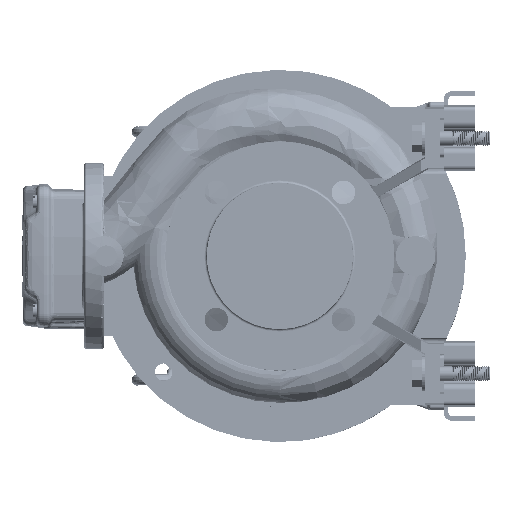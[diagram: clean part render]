
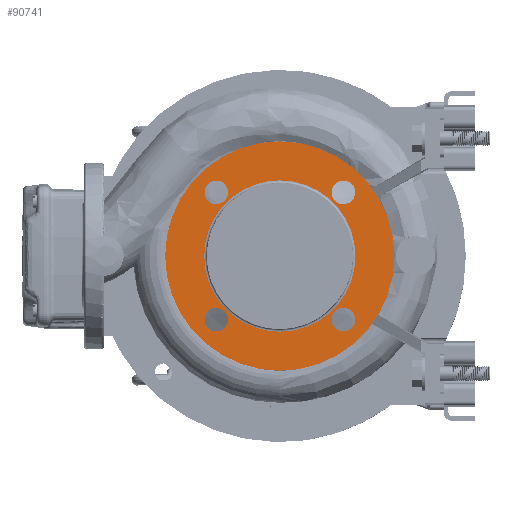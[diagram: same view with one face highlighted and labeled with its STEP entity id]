
A CAD part, left-side view. The second image highlights one B-rep face of the part: STEP entity #90741.
In plain terms, the highlighted planar face has unit normal (-1, 0, 0).
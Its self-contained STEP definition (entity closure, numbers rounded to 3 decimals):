
#400 = CARTESIAN_POINT ( 'NONE',  ( -105.237, 164.78, 289.123 ) ) ;
#564 = CARTESIAN_POINT ( 'NONE',  ( -105.237, 113.515, 237.858 ) ) ;
#1081 = EDGE_LOOP ( 'NONE', ( #107892, #130427 ) ) ;
#1752 = CARTESIAN_POINT ( 'NONE',  ( -105.237, 225.545, 340.389 ) ) ;
#5248 = DIRECTION ( 'NONE',  ( 0., 1., 0. ) ) ;
#6088 = FACE_BOUND ( 'NONE', #157242, .T. ) ;
#6342 = DIRECTION ( 'NONE',  ( -1., 0., 0. ) ) ;
#6360 = EDGE_LOOP ( 'NONE', ( #64210, #114131 ) ) ;
#6955 = CIRCLE ( 'NONE', #29042, 9.5 ) ;
#8656 = VERTEX_POINT ( 'NONE', #100483 ) ;
#10008 = CARTESIAN_POINT ( 'NONE',  ( -105.237, 113.515, 237.858 ) ) ;
#10297 = AXIS2_PLACEMENT_3D ( 'NONE', #54737, #160213, #94475 ) ;
#10913 = CARTESIAN_POINT ( 'NONE',  ( -105.237, 216.045, 237.858 ) ) ;
#11987 = EDGE_CURVE ( 'NONE', #84169, #156562, #120493, .T. ) ;
#12864 = CARTESIAN_POINT ( 'NONE',  ( -105.237, 104.015, 237.858 ) ) ;
#13376 = DIRECTION ( 'NONE',  ( 0., -1., 0. ) ) ;
#18458 = DIRECTION ( 'NONE',  ( 0., -1., 0. ) ) ;
#18833 = DIRECTION ( 'NONE',  ( -1., 0., 0. ) ) ;
#19903 = AXIS2_PLACEMENT_3D ( 'NONE', #10008, #48916, #141420 ) ;
#20022 = CIRCLE ( 'NONE', #42123, 9.5 ) ;
#20362 = ORIENTED_EDGE ( 'NONE', *, *, #132140, .F. ) ;
#24839 = CARTESIAN_POINT ( 'NONE',  ( -105.237, 164.78, 289.123 ) ) ;
#26240 = DIRECTION ( 'NONE',  ( -1., 0., 0. ) ) ;
#27394 = DIRECTION ( 'NONE',  ( 0., -1., 0. ) ) ;
#29042 = AXIS2_PLACEMENT_3D ( 'NONE', #10913, #132734, #90446 ) ;
#30324 = FACE_BOUND ( 'NONE', #6360, .T. ) ;
#31126 = AXIS2_PLACEMENT_3D ( 'NONE', #564, #53297, #106007 ) ;
#31679 = CIRCLE ( 'NONE', #70357, 92.5 ) ;
#37526 = EDGE_CURVE ( 'NONE', #105817, #50485, #147077, .T. ) ;
#37824 = ORIENTED_EDGE ( 'NONE', *, *, #59190, .F. ) ;
#38539 = CARTESIAN_POINT ( 'NONE',  ( -105.237, 72.28, 289.123 ) ) ;
#39515 = DIRECTION ( 'NONE',  ( -1., 0., 0. ) ) ;
#42123 = AXIS2_PLACEMENT_3D ( 'NONE', #152076, #70838, #113127 ) ;
#44366 = CARTESIAN_POINT ( 'NONE',  ( -105.237, 104.015, 340.389 ) ) ;
#46559 = CIRCLE ( 'NONE', #79680, 9.5 ) ;
#48916 = DIRECTION ( 'NONE',  ( -1., 0., 0. ) ) ;
#49728 = DIRECTION ( 'NONE',  ( -1., 0., 0. ) ) ;
#50485 = VERTEX_POINT ( 'NONE', #133570 ) ;
#51031 = CIRCLE ( 'NONE', #153259, 61. ) ;
#51048 = ORIENTED_EDGE ( 'NONE', *, *, #37526, .F. ) ;
#52044 = CIRCLE ( 'NONE', #93501, 92.5 ) ;
#53297 = DIRECTION ( 'NONE',  ( -1., 0., 0. ) ) ;
#53637 = CIRCLE ( 'NONE', #117048, 61. ) ;
#54737 = CARTESIAN_POINT ( 'NONE',  ( -105.237, 113.515, 340.389 ) ) ;
#54880 = EDGE_CURVE ( 'NONE', #135900, #85848, #51031, .T. ) ;
#55669 = CIRCLE ( 'NONE', #152318, 9.5 ) ;
#57381 = CARTESIAN_POINT ( 'NONE',  ( -105.237, 216.045, 340.389 ) ) ;
#58720 = EDGE_CURVE ( 'NONE', #50485, #105817, #155221, .T. ) ;
#59190 = EDGE_CURVE ( 'NONE', #128461, #162406, #20022, .T. ) ;
#60135 = AXIS2_PLACEMENT_3D ( 'NONE', #122825, #121144, #5248 ) ;
#61857 = ORIENTED_EDGE ( 'NONE', *, *, #87981, .F. ) ;
#62750 = CIRCLE ( 'NONE', #10297, 9.5 ) ;
#63541 = VERTEX_POINT ( 'NONE', #44366 ) ;
#64210 = ORIENTED_EDGE ( 'NONE', *, *, #11987, .F. ) ;
#65209 = AXIS2_PLACEMENT_3D ( 'NONE', #97494, #18833, #81140 ) ;
#67787 = EDGE_LOOP ( 'NONE', ( #167685, #37824 ) ) ;
#68611 = EDGE_LOOP ( 'NONE', ( #114712, #123154 ) ) ;
#68875 = VERTEX_POINT ( 'NONE', #38539 ) ;
#70357 = AXIS2_PLACEMENT_3D ( 'NONE', #77309, #26240, #160260 ) ;
#70838 = DIRECTION ( 'NONE',  ( -1., 0., 0. ) ) ;
#77207 = CARTESIAN_POINT ( 'NONE',  ( -105.237, 206.545, 340.389 ) ) ;
#77309 = CARTESIAN_POINT ( 'NONE',  ( -105.237, 164.78, 289.123 ) ) ;
#78772 = CARTESIAN_POINT ( 'NONE',  ( -105.237, 206.545, 237.858 ) ) ;
#79680 = AXIS2_PLACEMENT_3D ( 'NONE', #90356, #169854, #143107 ) ;
#80985 = CARTESIAN_POINT ( 'NONE',  ( -105.237, 225.78, 289.123 ) ) ;
#81140 = DIRECTION ( 'NONE',  ( 0., 0., 1. ) ) ;
#82378 = EDGE_CURVE ( 'NONE', #85848, #135900, #53637, .T. ) ;
#83887 = FACE_BOUND ( 'NONE', #68611, .T. ) ;
#84169 = VERTEX_POINT ( 'NONE', #78772 ) ;
#85553 = CARTESIAN_POINT ( 'NONE',  ( -105.237, 225.545, 237.858 ) ) ;
#85848 = VERTEX_POINT ( 'NONE', #80985 ) ;
#87981 = EDGE_CURVE ( 'NONE', #103503, #63541, #62750, .T. ) ;
#90356 = CARTESIAN_POINT ( 'NONE',  ( -105.237, 113.515, 340.389 ) ) ;
#90446 = DIRECTION ( 'NONE',  ( 0., 0., 1. ) ) ;
#90741 = ADVANCED_FACE ( 'NONE', ( #160907, #6088, #30324, #135782, #83887, #109847 ), #123683, .F. ) ;
#91216 = CARTESIAN_POINT ( 'NONE',  ( -105.237, 123.015, 340.389 ) ) ;
#93501 = AXIS2_PLACEMENT_3D ( 'NONE', #400, #49728, #13376 ) ;
#94475 = DIRECTION ( 'NONE',  ( 0., 0., -1. ) ) ;
#94843 = EDGE_CURVE ( 'NONE', #162406, #128461, #55669, .T. ) ;
#97494 = CARTESIAN_POINT ( 'NONE',  ( -105.237, 216.045, 237.858 ) ) ;
#100483 = CARTESIAN_POINT ( 'NONE',  ( -105.237, 257.28, 289.123 ) ) ;
#103503 = VERTEX_POINT ( 'NONE', #91216 ) ;
#105817 = VERTEX_POINT ( 'NONE', #12864 ) ;
#106007 = DIRECTION ( 'NONE',  ( 0., 1., 0. ) ) ;
#106676 = EDGE_CURVE ( 'NONE', #68875, #8656, #31679, .T. ) ;
#107892 = ORIENTED_EDGE ( 'NONE', *, *, #106676, .T. ) ;
#109847 = FACE_OUTER_BOUND ( 'NONE', #1081, .T. ) ;
#113127 = DIRECTION ( 'NONE',  ( 0., -1., 0. ) ) ;
#114131 = ORIENTED_EDGE ( 'NONE', *, *, #164029, .F. ) ;
#114712 = ORIENTED_EDGE ( 'NONE', *, *, #54880, .F. ) ;
#117048 = AXIS2_PLACEMENT_3D ( 'NONE', #159564, #134434, #132711 ) ;
#117263 = CARTESIAN_POINT ( 'NONE',  ( -105.237, 103.78, 289.123 ) ) ;
#120493 = CIRCLE ( 'NONE', #65209, 9.5 ) ;
#121144 = DIRECTION ( 'NONE',  ( 1., 0., 0. ) ) ;
#122825 = CARTESIAN_POINT ( 'NONE',  ( -105.237, 225.78, 289.123 ) ) ;
#123154 = ORIENTED_EDGE ( 'NONE', *, *, #82378, .F. ) ;
#123683 = PLANE ( 'NONE',  #60135 ) ;
#128461 = VERTEX_POINT ( 'NONE', #1752 ) ;
#130427 = ORIENTED_EDGE ( 'NONE', *, *, #132182, .T. ) ;
#132140 = EDGE_CURVE ( 'NONE', #63541, #103503, #46559, .T. ) ;
#132182 = EDGE_CURVE ( 'NONE', #8656, #68875, #52044, .T. ) ;
#132711 = DIRECTION ( 'NONE',  ( 0., -1., 0. ) ) ;
#132734 = DIRECTION ( 'NONE',  ( -1., 0., 0. ) ) ;
#133296 = EDGE_LOOP ( 'NONE', ( #20362, #61857 ) ) ;
#133570 = CARTESIAN_POINT ( 'NONE',  ( -105.237, 123.015, 237.858 ) ) ;
#134434 = DIRECTION ( 'NONE',  ( -1., 0., 0. ) ) ;
#135782 = FACE_BOUND ( 'NONE', #67787, .T. ) ;
#135900 = VERTEX_POINT ( 'NONE', #117263 ) ;
#139015 = ORIENTED_EDGE ( 'NONE', *, *, #58720, .F. ) ;
#141420 = DIRECTION ( 'NONE',  ( 0., 1., 0. ) ) ;
#143107 = DIRECTION ( 'NONE',  ( 0., 0., -1. ) ) ;
#147077 = CIRCLE ( 'NONE', #31126, 9.5 ) ;
#152076 = CARTESIAN_POINT ( 'NONE',  ( -105.237, 216.045, 340.389 ) ) ;
#152318 = AXIS2_PLACEMENT_3D ( 'NONE', #57381, #6342, #18458 ) ;
#153259 = AXIS2_PLACEMENT_3D ( 'NONE', #24839, #39515, #27394 ) ;
#155221 = CIRCLE ( 'NONE', #19903, 9.5 ) ;
#156562 = VERTEX_POINT ( 'NONE', #85553 ) ;
#157242 = EDGE_LOOP ( 'NONE', ( #51048, #139015 ) ) ;
#159564 = CARTESIAN_POINT ( 'NONE',  ( -105.237, 164.78, 289.123 ) ) ;
#160213 = DIRECTION ( 'NONE',  ( -1., 0., 0. ) ) ;
#160260 = DIRECTION ( 'NONE',  ( 0., -1., 0. ) ) ;
#160907 = FACE_BOUND ( 'NONE', #133296, .T. ) ;
#162406 = VERTEX_POINT ( 'NONE', #77207 ) ;
#164029 = EDGE_CURVE ( 'NONE', #156562, #84169, #6955, .T. ) ;
#167685 = ORIENTED_EDGE ( 'NONE', *, *, #94843, .F. ) ;
#169854 = DIRECTION ( 'NONE',  ( -1., 0., 0. ) ) ;
